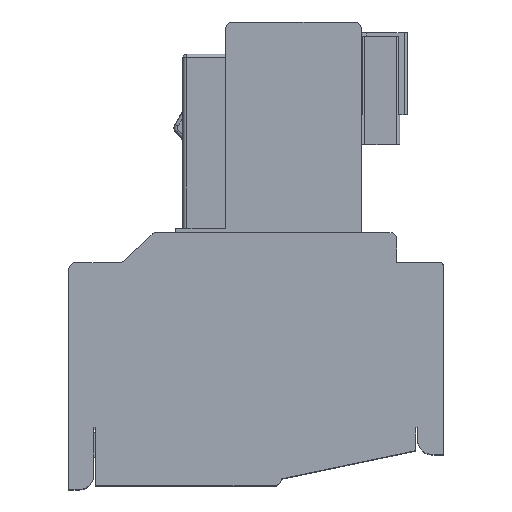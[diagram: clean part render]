
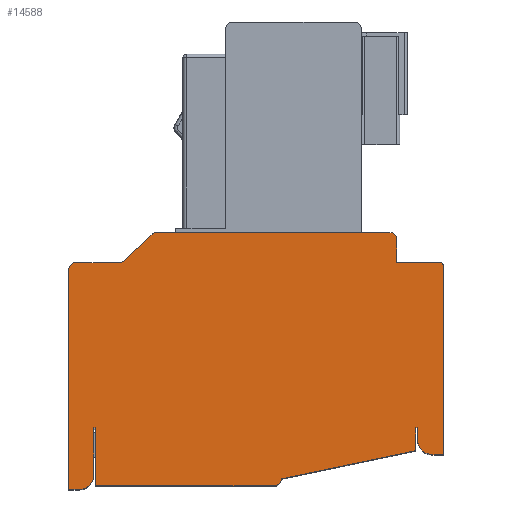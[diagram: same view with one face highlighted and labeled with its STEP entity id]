
A CAD part, top view. The second image highlights one B-rep face of the part: STEP entity #14588.
In plain terms, the highlighted planar face has unit normal (0, 0, 1).
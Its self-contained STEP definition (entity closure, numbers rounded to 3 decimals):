
#1414=DIRECTION('',(0.,1.,0.));
#1415=VECTOR('',#1414,0.643);
#1416=CARTESIAN_POINT('',(4.528,1.087,15.09));
#1417=LINE('',#1416,#1415);
#1418=DIRECTION('',(0.979,0.205,0.));
#1419=VECTOR('',#1418,3.85);
#1420=CARTESIAN_POINT('',(0.759,0.298,15.09));
#1421=LINE('',#1420,#1419);
#1422=CARTESIAN_POINT('',(0.559,0.3,15.09));
#1423=DIRECTION('',(0.,0.,1.));
#1424=DIRECTION('',(0.,-1.,0.));
#1425=AXIS2_PLACEMENT_3D('',#1422,#1423,#1424);
#1427=DIRECTION('',(1.,0.,0.));
#1428=VECTOR('',#1427,5.009);
#1429=CARTESIAN_POINT('',(-4.45,0.1,15.09));
#1430=LINE('',#1429,#1428);
#1431=DIRECTION('',(0.,-1.,0.));
#1432=VECTOR('',#1431,1.63);
#1433=CARTESIAN_POINT('',(-4.45,1.73,15.09));
#1434=LINE('',#1433,#1432);
#1435=DIRECTION('',(0.,1.,0.));
#1436=VECTOR('',#1435,1.33);
#1437=CARTESIAN_POINT('',(-4.5,0.4,15.09));
#1438=LINE('',#1437,#1436);
#1439=CARTESIAN_POINT('',(-4.9,0.4,15.09));
#1440=DIRECTION('',(0.,0.,1.));
#1441=DIRECTION('',(0.,-1.,0.));
#1442=AXIS2_PLACEMENT_3D('',#1439,#1440,#1441);
#1444=DIRECTION('',(1.,0.,0.));
#1445=VECTOR('',#1444,0.3);
#1446=CARTESIAN_POINT('',(-5.2,0.,15.09));
#1447=LINE('',#1446,#1445);
#1448=DIRECTION('',(0.,-1.,0.));
#1449=VECTOR('',#1448,6.16);
#1450=CARTESIAN_POINT('',(-5.2,6.16,15.09));
#1451=LINE('',#1450,#1449);
#1452=CARTESIAN_POINT('',(-5.,6.16,15.09));
#1453=DIRECTION('',(0.,0.,1.));
#1454=DIRECTION('',(0.,1.,0.));
#1455=AXIS2_PLACEMENT_3D('',#1452,#1453,#1454);
#1457=DIRECTION('',(-1.,0.,0.));
#1458=VECTOR('',#1457,1.221);
#1459=CARTESIAN_POINT('',(-3.779,6.36,15.09));
#1460=LINE('',#1459,#1458);
#1461=CARTESIAN_POINT('',(-3.779,6.56,15.09));
#1462=DIRECTION('',(0.,0.,-1.));
#1463=DIRECTION('',(0.685,-0.729,0.));
#1464=AXIS2_PLACEMENT_3D('',#1461,#1462,#1463);
#1466=DIRECTION('',(-0.729,-0.685,0.));
#1467=VECTOR('',#1466,1.068);
#1468=CARTESIAN_POINT('',(-2.864,7.146,15.09));
#1469=LINE('',#1468,#1467);
#1470=CARTESIAN_POINT('',(-2.727,7.,15.09));
#1471=DIRECTION('',(0.,0.,1.));
#1472=DIRECTION('',(0.,1.,0.));
#1473=AXIS2_PLACEMENT_3D('',#1470,#1471,#1472);
#1475=DIRECTION('',(-1.,0.,0.));
#1476=VECTOR('',#1475,6.527);
#1477=CARTESIAN_POINT('',(3.8,7.2,15.09));
#1478=LINE('',#1477,#1476);
#1479=CARTESIAN_POINT('',(3.8,7.,15.09));
#1480=DIRECTION('',(0.,0.,1.));
#1481=DIRECTION('',(1.,0.,0.));
#1482=AXIS2_PLACEMENT_3D('',#1479,#1480,#1481);
#1484=DIRECTION('',(0.,1.,0.));
#1485=VECTOR('',#1484,0.64);
#1486=CARTESIAN_POINT('',(4.,6.36,15.09));
#1487=LINE('',#1486,#1485);
#1488=CARTESIAN_POINT('',(5.2,6.26,15.09));
#1489=DIRECTION('',(0.,0.,1.));
#1490=DIRECTION('',(1.,0.,0.));
#1491=AXIS2_PLACEMENT_3D('',#1488,#1489,#1490);
#1493=DIRECTION('',(0.,1.,0.));
#1494=VECTOR('',#1493,5.28);
#1495=CARTESIAN_POINT('',(5.3,0.98,15.09));
#1496=LINE('',#1495,#1494);
#1497=DIRECTION('',(1.,0.,0.));
#1498=VECTOR('',#1497,0.32);
#1499=CARTESIAN_POINT('',(4.98,0.98,15.09));
#1500=LINE('',#1499,#1498);
#1501=CARTESIAN_POINT('',(4.98,1.38,15.09));
#1502=DIRECTION('',(0.,0.,1.));
#1503=DIRECTION('',(-1.,0.,0.));
#1504=AXIS2_PLACEMENT_3D('',#1501,#1502,#1503);
#1506=DIRECTION('',(0.,-1.,0.));
#1507=VECTOR('',#1506,0.35);
#1508=CARTESIAN_POINT('',(4.58,1.73,15.09));
#1509=LINE('',#1508,#1507);
#1514=DIRECTION('',(-1.,0.,0.));
#1515=VECTOR('',#1514,0.052);
#1516=CARTESIAN_POINT('',(4.58,1.73,15.09));
#1517=LINE('',#1516,#1515);
#1530=DIRECTION('',(-1.,0.,0.));
#1531=VECTOR('',#1530,0.05);
#1532=CARTESIAN_POINT('',(-4.45,1.73,15.09));
#1533=LINE('',#1532,#1531);
#8430=DIRECTION('',(1.,0.,0.));
#8431=VECTOR('',#8430,1.2);
#8432=CARTESIAN_POINT('',(4.,6.36,15.09));
#8433=LINE('',#8432,#8431);
#10403=CARTESIAN_POINT('',(3.8,7.2,15.09));
#10404=VERTEX_POINT('',#10403);
#10405=CARTESIAN_POINT('',(-2.727,7.2,15.09));
#10406=VERTEX_POINT('',#10405);
#10437=CARTESIAN_POINT('',(-5.,6.36,15.09));
#10439=VERTEX_POINT('',#10437);
#10443=CARTESIAN_POINT('',(-3.779,6.36,15.09));
#10444=VERTEX_POINT('',#10443);
#10446=CARTESIAN_POINT('',(-5.2,6.16,15.09));
#10448=VERTEX_POINT('',#10446);
#10449=CARTESIAN_POINT('',(-5.2,0.,15.09));
#10451=VERTEX_POINT('',#10449);
#10477=CARTESIAN_POINT('',(-4.9,0.,15.09));
#10479=VERTEX_POINT('',#10477);
#10482=CARTESIAN_POINT('',(-4.5,0.4,15.09));
#10484=VERTEX_POINT('',#10482);
#10487=CARTESIAN_POINT('',(-4.5,1.73,15.09));
#10488=VERTEX_POINT('',#10487);
#10543=CARTESIAN_POINT('',(5.3,0.98,15.09));
#10544=VERTEX_POINT('',#10543);
#10545=CARTESIAN_POINT('',(5.3,6.26,15.09));
#10546=VERTEX_POINT('',#10545);
#10605=CARTESIAN_POINT('',(4.,7.,15.09));
#10607=VERTEX_POINT('',#10605);
#10631=CARTESIAN_POINT('',(4.,6.36,15.09));
#10632=VERTEX_POINT('',#10631);
#11181=CARTESIAN_POINT('',(4.58,1.38,15.09));
#11182=VERTEX_POINT('',#11181);
#11221=CARTESIAN_POINT('',(4.58,1.73,15.09));
#11222=VERTEX_POINT('',#11221);
#11223=CARTESIAN_POINT('',(4.98,0.98,15.09));
#11224=VERTEX_POINT('',#11223);
#11225=CARTESIAN_POINT('',(5.2,6.36,15.09));
#11226=VERTEX_POINT('',#11225);
#11227=CARTESIAN_POINT('',(-3.642,6.414,15.09));
#11228=VERTEX_POINT('',#11227);
#11229=CARTESIAN_POINT('',(-2.864,7.146,15.09));
#11230=VERTEX_POINT('',#11229);
#12482=CARTESIAN_POINT('',(4.528,1.087,15.09));
#12484=VERTEX_POINT('',#12482);
#12527=CARTESIAN_POINT('',(-4.45,0.1,15.09));
#12529=VERTEX_POINT('',#12527);
#12555=CARTESIAN_POINT('',(0.559,0.1,15.09));
#12557=VERTEX_POINT('',#12555);
#12584=CARTESIAN_POINT('',(0.759,0.298,15.09));
#12586=VERTEX_POINT('',#12584);
#13069=CARTESIAN_POINT('',(4.528,1.73,15.09));
#13071=VERTEX_POINT('',#13069);
#13083=CARTESIAN_POINT('',(-4.45,1.73,15.09));
#13084=VERTEX_POINT('',#13083);
#14533=CARTESIAN_POINT('',(-0.25,4.5,15.09));
#14534=DIRECTION('',(0.,0.,1.));
#14535=DIRECTION('',(1.,0.,0.));
#14536=AXIS2_PLACEMENT_3D('',#14533,#14534,#14535);
#14537=PLANE('',#14536);
#14539=ORIENTED_EDGE('',*,*,#14538,.T.);
#14541=ORIENTED_EDGE('',*,*,#14540,.F.);
#14543=ORIENTED_EDGE('',*,*,#14542,.F.);
#14545=ORIENTED_EDGE('',*,*,#14544,.F.);
#14547=ORIENTED_EDGE('',*,*,#14546,.F.);
#14549=ORIENTED_EDGE('',*,*,#14548,.F.);
#14551=ORIENTED_EDGE('',*,*,#14550,.T.);
#14553=ORIENTED_EDGE('',*,*,#14552,.F.);
#14555=ORIENTED_EDGE('',*,*,#14554,.F.);
#14557=ORIENTED_EDGE('',*,*,#14556,.F.);
#14559=ORIENTED_EDGE('',*,*,#14558,.F.);
#14561=ORIENTED_EDGE('',*,*,#14560,.F.);
#14563=ORIENTED_EDGE('',*,*,#14562,.F.);
#14565=ORIENTED_EDGE('',*,*,#14564,.F.);
#14567=ORIENTED_EDGE('',*,*,#14566,.F.);
#14569=ORIENTED_EDGE('',*,*,#14568,.F.);
#14571=ORIENTED_EDGE('',*,*,#14570,.F.);
#14573=ORIENTED_EDGE('',*,*,#14572,.F.);
#14575=ORIENTED_EDGE('',*,*,#14574,.F.);
#14577=ORIENTED_EDGE('',*,*,#14576,.T.);
#14579=ORIENTED_EDGE('',*,*,#14578,.F.);
#14580=ORIENTED_EDGE('',*,*,#13920,.F.);
#14582=ORIENTED_EDGE('',*,*,#14581,.F.);
#14584=ORIENTED_EDGE('',*,*,#14583,.F.);
#14585=ORIENTED_EDGE('',*,*,#14479,.F.);
#14586=EDGE_LOOP('',(#14539,#14541,#14543,#14545,#14547,#14549,#14551,#14553,
#14555,#14557,#14559,#14561,#14563,#14565,#14567,#14569,#14571,#14573,#14575,
#14577,#14579,#14580,#14582,#14584,#14585));
#14587=FACE_OUTER_BOUND('',#14586,.F.);
#1426=CIRCLE('',#1425,0.2);
#1443=CIRCLE('',#1442,0.4);
#1456=CIRCLE('',#1455,0.2);
#1465=CIRCLE('',#1464,0.2);
#1474=CIRCLE('',#1473,0.2);
#1483=CIRCLE('',#1482,0.2);
#1492=CIRCLE('',#1491,0.1);
#1505=CIRCLE('',#1504,0.4);
#13920=EDGE_CURVE('',#10544,#10546,#1496,.T.);
#14479=EDGE_CURVE('',#11222,#11182,#1509,.T.);
#14538=EDGE_CURVE('',#11222,#13071,#1517,.T.);
#14540=EDGE_CURVE('',#12484,#13071,#1417,.T.);
#14542=EDGE_CURVE('',#12586,#12484,#1421,.T.);
#14544=EDGE_CURVE('',#12557,#12586,#1426,.T.);
#14546=EDGE_CURVE('',#12529,#12557,#1430,.T.);
#14548=EDGE_CURVE('',#13084,#12529,#1434,.T.);
#14550=EDGE_CURVE('',#13084,#10488,#1533,.T.);
#14552=EDGE_CURVE('',#10484,#10488,#1438,.T.);
#14554=EDGE_CURVE('',#10479,#10484,#1443,.T.);
#14556=EDGE_CURVE('',#10451,#10479,#1447,.T.);
#14558=EDGE_CURVE('',#10448,#10451,#1451,.T.);
#14560=EDGE_CURVE('',#10439,#10448,#1456,.T.);
#14562=EDGE_CURVE('',#10444,#10439,#1460,.T.);
#14564=EDGE_CURVE('',#11228,#10444,#1465,.T.);
#14566=EDGE_CURVE('',#11230,#11228,#1469,.T.);
#14568=EDGE_CURVE('',#10406,#11230,#1474,.T.);
#14570=EDGE_CURVE('',#10404,#10406,#1478,.T.);
#14572=EDGE_CURVE('',#10607,#10404,#1483,.T.);
#14574=EDGE_CURVE('',#10632,#10607,#1487,.T.);
#14576=EDGE_CURVE('',#10632,#11226,#8433,.T.);
#14578=EDGE_CURVE('',#10546,#11226,#1492,.T.);
#14581=EDGE_CURVE('',#11224,#10544,#1500,.T.);
#14583=EDGE_CURVE('',#11182,#11224,#1505,.T.);
#14588=ADVANCED_FACE('',(#14587),#14537,.T.);
